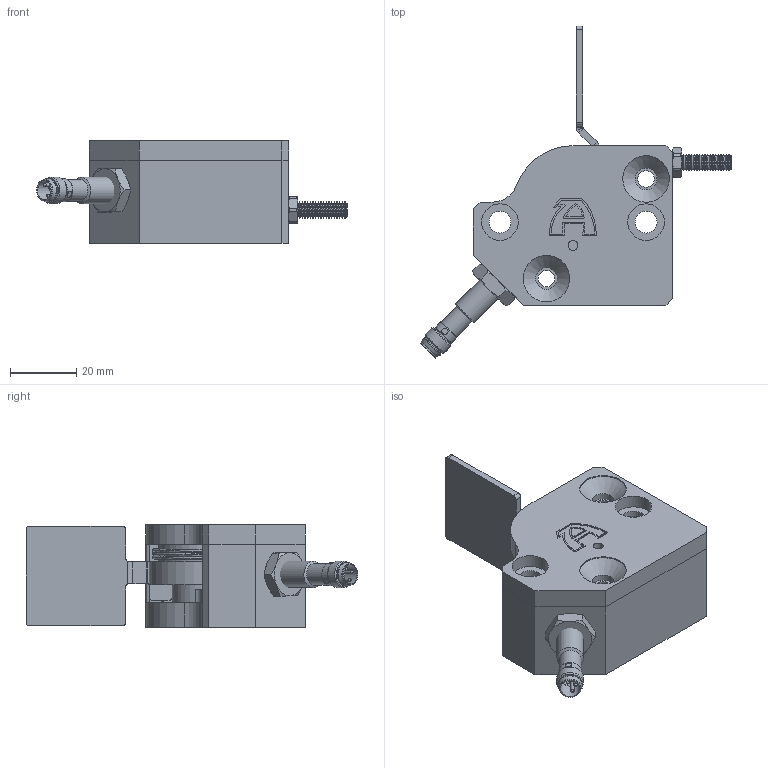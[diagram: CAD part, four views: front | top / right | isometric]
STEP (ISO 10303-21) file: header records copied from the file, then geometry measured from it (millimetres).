
FILE_DESCRIPTION (( 'STEP AP214' ), '1' );
FILE_NAME ('FC-3-A-Tooling.step', '2019-06-27T13:00:26', ( '' ), ( '' ), 'SwSTEP 2.0', 'SolidWorks 2010', '' );
FILE_SCHEMA (( 'AUTOMOTIVE_DESIGN' ));
Length unit declared in the file: millimetre
Products named in the file (11): CPK-10,0-m6x20-A-Tooling-A-Tooling; A-TOOLING MC6S M4x8; Hus-FC3; Lock-FC3; Vridfjader-FC3; I08000078_givare; 09134___5_25-mattssons; 4392_4__5-mattssons; Givare_fc3; FC3_Pl廞_givare_variant2(Default); FC-3-A-Tooling
Assembly tree (11 placements, depth 2):
  FC-3-A-Tooling
    I08000078_givare
    09134___5_25-mattssons
    Vridfjader-FC3
    4392_4__5-mattssons
    Lock-FC3
    Hus-FC3
    A-TOOLING MC6S M4x8  x2
    FC3_Pl廞_givare_variant2(Default)
    Givare_fc3
    CPK-10,0-m6x20-A-Tooling-A-Tooling
Bounding box: 93.6 x 99.96 x 31 mm (x, y, z)
Volume: 65789.3 mm3; surface area: 30435.7 mm2
Topology: 10 solids, 17 shells, 529 faces, 1242 edges, 765 vertices
Faces by surface type: cylinder 208, plane 159, cone 112, torus 38, bspline 7, sphere 5
Full cylindrical faces by diameter (mm): 1 x7, 3 x3, 3.3 x2, 4 x4, 4.134 x2, 4.2 x3, 5 x32, 5.8 x1, 6.4 x1, 6.5 x3, 6.6 x7, 6.9 x1, 7 x2, 7.2 x1, 8 x2, 8.25 x1, 10 x3, 11 x4, 14 x2, 20 x1
Entity records: 15247 total; most frequent: CARTESIAN_POINT 3685, DIRECTION 2473, ORIENTED_EDGE 1950, AXIS2_PLACEMENT_3D 1043, EDGE_CURVE 980, EDGE_LOOP 779, VERTEX_POINT 723, FACE_OUTER_BOUND 629
